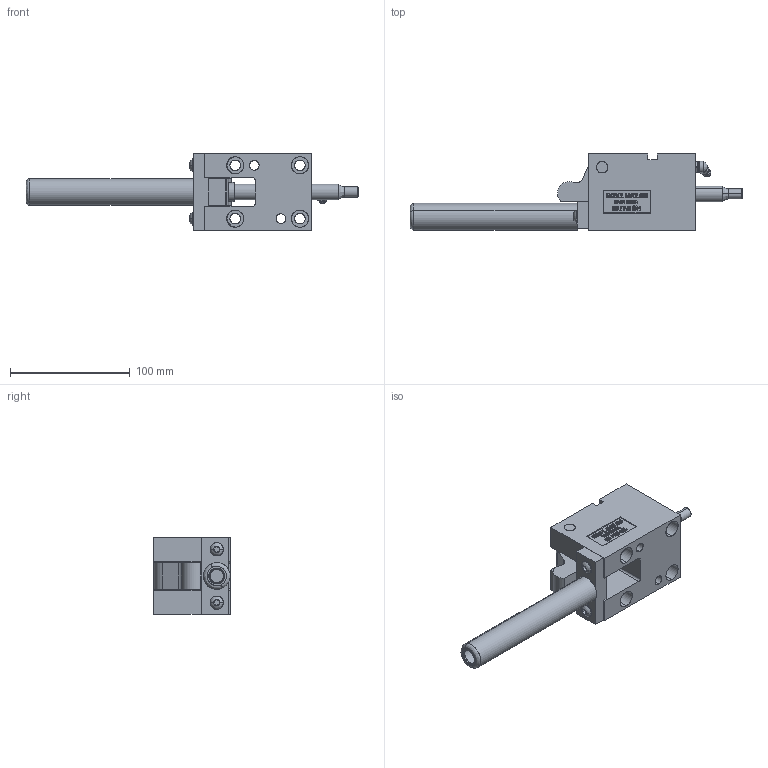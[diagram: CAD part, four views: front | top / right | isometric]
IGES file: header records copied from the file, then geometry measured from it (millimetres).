
Start section: SolidWorks IGES file using analytic representation for surfaces
Global section: file name: Y:\METRIC With OFFSETRIGGER\TOPMOUNT\MTOL50045\CLOSED\MTOL50045-C.IGS; native system: SolidWorks 2006 by SolidWorks Corporation; preprocessor: SolidWorks 2006 by SolidWorks Corporation; author: Jim; date: 090120.181709; units: inch
Bounding box: 276.89 x 63.5 x 63.5 mm (x, y, z)
Surface area: 88224.1 mm2 (no closed solid volume)
Topology: 0 solids, 0 shells, 596 faces, 7335 edges, 7331 vertices
Faces by surface type: bspline 472, revolution 124
